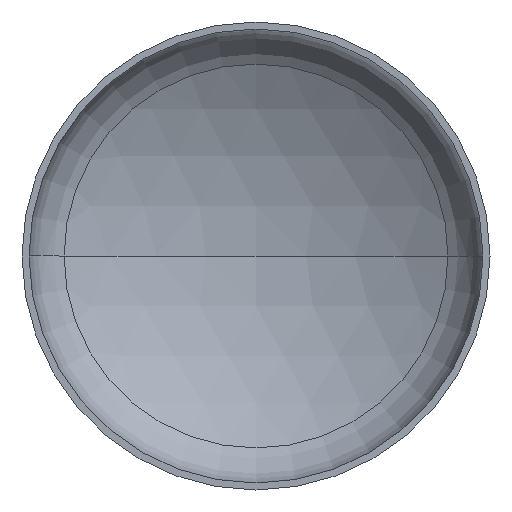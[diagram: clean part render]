
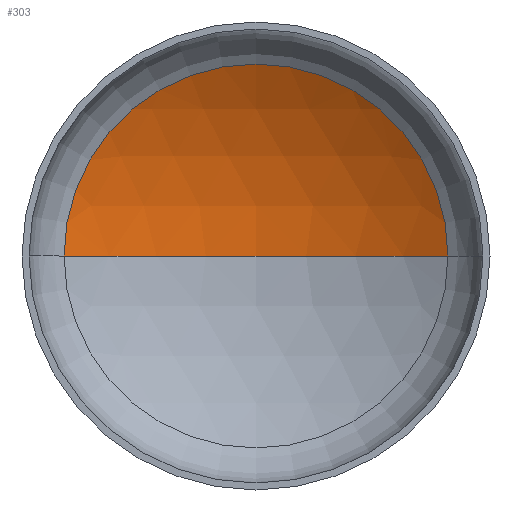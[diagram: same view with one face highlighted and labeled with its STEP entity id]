
A CAD part, front view. The second image highlights one B-rep face of the part: STEP entity #303.
In plain terms, the highlighted spherical face has radius 2240 mm.
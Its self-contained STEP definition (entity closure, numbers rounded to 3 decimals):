
#5 = AXIS2_PLACEMENT_3D ( 'NONE', #281, #199, #119 ) ;
#19 = ORIENTED_EDGE ( 'NONE', *, *, #117, .T. ) ;
#21 = AXIS2_PLACEMENT_3D ( 'NONE', #186, #282, #274 ) ;
#53 = VERTEX_POINT ( 'NONE', #210 ) ;
#54 = AXIS2_PLACEMENT_3D ( 'NONE', #159, #154, #152 ) ;
#55 = AXIS2_PLACEMENT_3D ( 'NONE', #165, #162, #178 ) ;
#65 = EDGE_LOOP ( 'NONE', ( #98, #19, #94 ) ) ;
#70 = CARTESIAN_POINT ( 'NONE',  ( 1148.464, 499.182, 0. ) ) ;
#94 = ORIENTED_EDGE ( 'NONE', *, *, #116, .T. ) ;
#98 = ORIENTED_EDGE ( 'NONE', *, *, #354, .F. ) ;
#116 = EDGE_CURVE ( 'NONE', #138, #53, #362, .T. ) ;
#117 = EDGE_CURVE ( 'NONE', #141, #138, #174, .T. ) ;
#119 = DIRECTION ( 'NONE',  ( 1., 0., 0. ) ) ;
#138 = VERTEX_POINT ( 'NONE', #70 ) ;
#141 = VERTEX_POINT ( 'NONE', #177 ) ;
#152 = DIRECTION ( 'NONE',  ( -1., 0., 0. ) ) ;
#154 = DIRECTION ( 'NONE',  ( 0., 0., -1. ) ) ;
#159 = CARTESIAN_POINT ( 'NONE',  ( 0., -1424., 0. ) ) ;
#162 = DIRECTION ( 'NONE',  ( 0., -1., 0. ) ) ;
#165 = CARTESIAN_POINT ( 'NONE',  ( 0., 499.182, 0. ) ) ;
#174 = CIRCLE ( 'NONE', #54, 2240. ) ;
#177 = CARTESIAN_POINT ( 'NONE',  ( 0., 816., 0. ) ) ;
#178 = DIRECTION ( 'NONE',  ( 1., 0., 0. ) ) ;
#186 = CARTESIAN_POINT ( 'NONE',  ( 0., -1424., 0. ) ) ;
#199 = DIRECTION ( 'NONE',  ( 0., 0., 1. ) ) ;
#210 = CARTESIAN_POINT ( 'NONE',  ( -1148.464, 499.182, 0. ) ) ;
#229 = SPHERICAL_SURFACE ( 'NONE', #21, 2240. ) ;
#274 = DIRECTION ( 'NONE',  ( -1., 0., 0. ) ) ;
#281 = CARTESIAN_POINT ( 'NONE',  ( 0., -1424., 0. ) ) ;
#282 = DIRECTION ( 'NONE',  ( 0., 0., -1. ) ) ;
#303 = ADVANCED_FACE ( 'NONE', ( #338 ), #229, .F. ) ;
#320 = CIRCLE ( 'NONE', #5, 2240. ) ;
#338 = FACE_OUTER_BOUND ( 'NONE', #65, .T. ) ;
#354 = EDGE_CURVE ( 'NONE', #141, #53, #320, .T. ) ;
#362 = CIRCLE ( 'NONE', #55, 1148.464 ) ;
